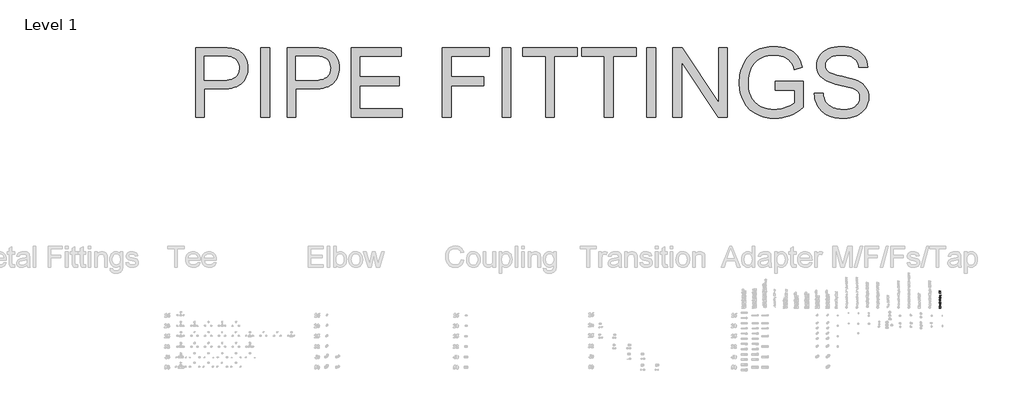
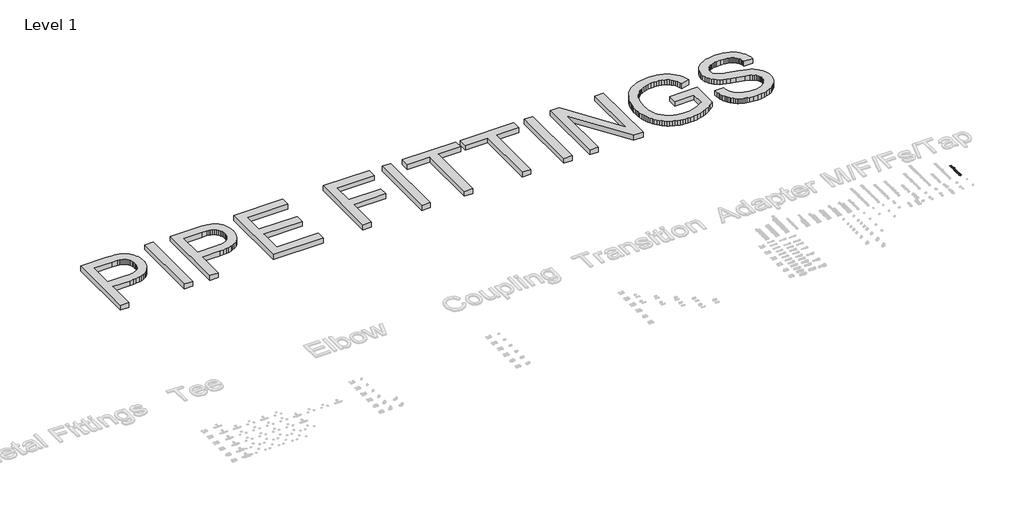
# One storey, part 57 of 57: 2 proxies.
"""IFC4 building model written with IfcOpenShell, lengths in millimetres."""

from ifc_helpers import new_model, si_unit, frame, origin, place, context, project, spatial, polyline, outline, extrude, element, save

model = new_model("IFC4")

# Units and contexts
model_context = context("Model", 3, world=origin())
ifc_project = project(units=[si_unit("LENGTHUNIT", "METRE", prefix="MILLI")], contexts=[model_context])

# Site, building, storey
site = spatial("IfcSite", under=ifc_project)
building = spatial("IfcBuilding", under=site)
storey = spatial("IfcBuildingStorey", under=building, Name="Level 1", Elevation=27.3876384)

# Proxies
placement = place(None, origin())
element("IfcBuildingElementProxy", 1, Name="2000mm Arial", ObjectType="2000mm Arial", at=placement, inside=storey, context=model_context, shape_type="SweptSolid", body=[
    extrude(outline(polyline([(13601.5317073, 35917.4021337), (13601.5317073, 37926.5283367), (14346.1248656, 37926.5283367), (14519.5199126, 37921.7458708), (14588.7430414, 37915.7677884), (14646.3165736, 37907.398473), (14716.1988243, 37892.3306396), (14780.1643062, 37871.6526058), (14838.2130194, 37845.3643716), (14890.3449638, 37813.4659369), (14937.1119624, 37775.2981799), (14979.0658383, 37730.2019786), (15016.2065914, 37678.1773332), (15048.5342217, 37619.2242434), (15074.715157, 37555.2894184), (15093.4158251, 37488.3195668), (15104.636226, 37418.3146888), (15108.3763596, 37345.2747844), (15105.851003, 37282.3746274), (15098.2749331, 37221.9423455), (15085.6481501, 37163.9779386), (15067.9706538, 37108.4814068), (15045.2424443, 37055.45275), (15017.4635215, 37004.8919683), (14984.6338856, 36956.7990617), (14946.7535364, 36911.17403), (14902.2819681, 36869.5573793), (14849.6786749, 36833.4896154), (14788.9436568, 36802.9707382), (14720.0769137, 36778.0007478), (14643.0784457, 36758.5796441), (14557.9482527, 36744.7074272), (14464.6863348, 36736.3840971), (14363.292692, 36733.6096537), (13852.6724827, 36733.6096537), (13852.6724827, 35917.4021337), (13601.5317073, 35917.4021337)]), holes=[polyline([(13852.6724827, 36984.7504291), (14378.0079718, 36984.7504291), (14498.7958936, 36990.5139137), (14552.108126, 36997.7182694), (14600.6992062, 37007.8043674), (14644.5691342, 37020.7722078), (14683.7179098, 37036.6217904), (14718.1455332, 37055.3531153), (14747.8520043, 37076.9661825), (14773.4887809, 37101.1927448), (14795.7073205, 37127.7645547), (14814.5076233, 37156.6816124), (14829.8896892, 37187.9439178), (14841.8535183, 37221.5514709), (14850.3991105, 37257.5042717), (14855.5264658, 37295.8023202), (14857.2355842, 37336.4456165), (14853.2042107, 37395.061481), (14841.1100901, 37449.2627617), (14820.9532224, 37499.0494583), (14792.7336077, 37544.4215711), (14757.9534308, 37583.9075719), (14718.1148764, 37616.0359328), (14673.2179445, 37640.8066538), (14623.2626353, 37658.2197349), (14581.9985382, 37665.730659), (14526.3870432, 37671.0956048), (14372.1218599, 37675.3875614), (13852.6724827, 37675.3875614), (13852.6724827, 36984.7504291)])]), frame((0.0, 0.0, 27.3876384), z_axis=(0.0, 0.0, 1.0), x_axis=(1.0, 0.0, 0.0)), (0.0, 0.0, 1.0), 150.0),
    extrude(outline(polyline([(15485.0875227, 35917.4021337), (15485.0875227, 37926.5283367), (15736.228298, 37926.5283367), (15736.228298, 35917.4021337), (15485.0875227, 35917.4021337)])), frame((0.0, 0.0, 27.3876384), z_axis=(0.0, 0.0, 1.0), x_axis=(1.0, 0.0, 0.0)), (0.0, 0.0, 1.0), 150.0),
    extrude(outline(polyline([(16238.5098488, 35917.4021337), (16238.5098488, 37926.5283367), (16983.103007, 37926.5283367), (17156.4980541, 37921.7458708), (17225.7211828, 37915.7677884), (17283.2947151, 37907.398473), (17353.1769657, 37892.3306396), (17417.1424477, 37871.6526058), (17475.1911608, 37845.3643716), (17527.3231052, 37813.4659369), (17574.0901038, 37775.2981799), (17616.0439797, 37730.2019786), (17653.1847328, 37678.1773332), (17685.5123631, 37619.2242434), (17711.6932985, 37555.2894184), (17730.3939665, 37488.3195668), (17741.6143674, 37418.3146888), (17745.354501, 37345.2747844), (17742.8291444, 37282.3746274), (17735.2530746, 37221.9423455), (17722.6262915, 37163.9779386), (17704.9487952, 37108.4814068), (17682.2205857, 37055.45275), (17654.441663, 37004.8919683), (17621.612027, 36956.7990617), (17583.7316778, 36911.17403), (17539.2601095, 36869.5573793), (17486.6568163, 36833.4896154), (17425.9217982, 36802.9707382), (17357.0550551, 36778.0007478), (17280.0565871, 36758.5796441), (17194.9263942, 36744.7074272), (17101.6644763, 36736.3840971), (17000.2708335, 36733.6096537), (16489.6506241, 36733.6096537), (16489.6506241, 35917.4021337), (16238.5098488, 35917.4021337)]), holes=[polyline([(16489.6506241, 36984.7504291), (17014.9861133, 36984.7504291), (17135.774035, 36990.5139137), (17189.0862675, 36997.7182694), (17237.6773477, 37007.8043674), (17281.5472756, 37020.7722078), (17320.6960513, 37036.6217904), (17355.1236746, 37055.3531153), (17384.8301457, 37076.9661825), (17410.4669223, 37101.1927448), (17432.685462, 37127.7645547), (17451.4857647, 37156.6816124), (17466.8678307, 37187.9439178), (17478.8316597, 37221.5514709), (17487.3772519, 37257.5042717), (17492.5046072, 37295.8023202), (17494.2137256, 37336.4456165), (17490.1823521, 37395.061481), (17478.0882315, 37449.2627617), (17457.9313639, 37499.0494583), (17429.7117492, 37544.4215711), (17394.9315722, 37583.9075719), (17355.0930178, 37616.0359328), (17310.196086, 37640.8066538), (17260.2407767, 37658.2197349), (17218.9766796, 37665.730659), (17163.3651846, 37671.0956048), (17009.1000013, 37675.3875614), (16489.6506241, 37675.3875614), (16489.6506241, 36984.7504291)])]), frame((0.0, 0.0, 27.3876384), z_axis=(0.0, 0.0, 1.0), x_axis=(1.0, 0.0, 0.0)), (0.0, 0.0, 1.0), 150.0),
    extrude(outline(polyline([(18090.6730672, 35917.4021337), (18090.6730672, 37926.5283367), (19534.7325256, 37926.5283367), (19534.7325256, 37675.3875614), (18341.8138425, 37675.3875614), (18341.8138425, 37078.9282199), (19471.9473317, 37078.9282199), (19471.9473317, 36827.7874445), (18341.8138425, 36827.7874445), (18341.8138425, 36168.5429091), (19566.1251225, 36168.5429091), (19566.1251225, 35917.4021337), (18090.6730672, 35917.4021337)])), frame((0.0, 0.0, 27.3876384), z_axis=(0.0, 0.0, 1.0), x_axis=(1.0, 0.0, 0.0)), (0.0, 0.0, 1.0), 150.0),
    extrude(outline(polyline([(20727.6512086, 35917.4021337), (20727.6512086, 37926.5283367), (22077.5328762, 37926.5283367), (22077.5328762, 37675.3875614), (20978.791984, 37675.3875614), (20978.791984, 37078.9282199), (21920.5698916, 37078.9282199), (21920.5698916, 36827.7874445), (20978.791984, 36827.7874445), (20978.791984, 35917.4021337), (20727.6512086, 35917.4021337)])), frame((0.0, 0.0, 27.3876384), z_axis=(0.0, 0.0, 1.0), x_axis=(1.0, 0.0, 0.0)), (0.0, 0.0, 1.0), 150.0),
    extrude(outline(polyline([(22454.2440393, 35917.4021337), (22454.2440393, 37926.5283367), (22705.3848147, 37926.5283367), (22705.3848147, 35917.4021337), (22454.2440393, 35917.4021337)])), frame((0.0, 0.0, 27.3876384), z_axis=(0.0, 0.0, 1.0), x_axis=(1.0, 0.0, 0.0)), (0.0, 0.0, 1.0), 150.0),
    extrude(outline(polyline([(23709.9479162, 35917.4021337), (23709.9479162, 37675.3875614), (23050.7033808, 37675.3875614), (23050.7033808, 37926.5283367), (24620.3332269, 37926.5283367), (24620.3332269, 37675.3875614), (23961.0886915, 37675.3875614), (23961.0886915, 35917.4021337), (23709.9479162, 35917.4021337)])), frame((0.0, 0.0, 27.3876384), z_axis=(0.0, 0.0, 1.0), x_axis=(1.0, 0.0, 0.0)), (0.0, 0.0, 1.0), 150.0),
    extrude(outline(polyline([(25405.1481499, 35917.4021337), (25405.1481499, 37675.3875614), (24745.9036146, 37675.3875614), (24745.9036146, 37926.5283367), (26315.5334607, 37926.5283367), (26315.5334607, 37675.3875614), (25656.2889253, 37675.3875614), (25656.2889253, 35917.4021337), (25405.1481499, 35917.4021337)])), frame((0.0, 0.0, 27.3876384), z_axis=(0.0, 0.0, 1.0), x_axis=(1.0, 0.0, 0.0)), (0.0, 0.0, 1.0), 150.0),
    extrude(outline(polyline([(26629.4594299, 35917.4021337), (26629.4594299, 37926.5283367), (26880.6002052, 37926.5283367), (26880.6002052, 35917.4021337), (26629.4594299, 35917.4021337)])), frame((0.0, 0.0, 27.3876384), z_axis=(0.0, 0.0, 1.0), x_axis=(1.0, 0.0, 0.0)), (0.0, 0.0, 1.0), 150.0),
    extrude(outline(polyline([(27382.881756, 35917.4021337), (27382.881756, 37926.5283367), (27651.6808671, 37926.5283367), (28701.3708267, 36334.8255709), (28701.3708267, 37926.5283367), (28952.5116021, 37926.5283367), (28952.5116021, 35917.4021337), (28683.7124909, 35917.4021337), (27634.0225314, 37509.5954089), (27634.0225314, 35917.4021337), (27382.881756, 35917.4021337)])), frame((0.0, 0.0, 27.3876384), z_axis=(0.0, 0.0, 1.0), x_axis=(1.0, 0.0, 0.0)), (0.0, 0.0, 1.0), 150.0),
    extrude(outline(polyline([(30333.7858666, 36702.2170568), (30333.7858666, 36953.3578322), (31149.9933866, 36953.3578322), (31149.9933866, 36202.3880527), (31051.6002813, 36128.5357421), (30951.6436775, 36064.4323045), (30850.1235753, 36010.0777397), (30747.0399746, 35965.4720478), (30642.5155027, 35930.7071992), (30536.672787, 35905.8751646), (30429.5118275, 35890.9759438), (30321.0326241, 35886.0095368), (30248.0578655, 35887.9830704), (30176.7768968, 35893.9036713), (30107.1897181, 35903.7713394), (30039.2963295, 35917.5860747), (29973.0967309, 35935.3478773), (29908.5909223, 35957.0567471), (29845.7789037, 35982.7126842), (29784.6606752, 36012.3156885), (29726.2364158, 36045.6588264), (29671.5063048, 36082.5351643), (29620.4703422, 36122.9447022), (29573.1285279, 36166.8874401), (29529.4808621, 36214.363378), (29489.5273445, 36265.3725159), (29453.2679754, 36319.9148538), (29420.7027546, 36377.9903917), (29391.9044922, 36438.6985851), (29366.9459981, 36501.1388896), (29345.8272723, 36565.3113051), (29328.5483148, 36631.2158317), (29315.1091257, 36698.8524694), (29305.5097049, 36768.2212181), (29299.7500524, 36839.3220779), (29297.8301682, 36912.1550487), (29299.7423882, 36984.746597), (29305.479048, 37056.1042077), (29315.0401478, 37126.227881), (29328.4256875, 37195.1176167), (29345.6356671, 37262.7734148), (29366.6700866, 37329.1952755), (29391.528946, 37394.3831986), (29420.2122453, 37458.3371842), (29452.482394, 37519.6393538), (29488.1018018, 37576.8718287), (29527.0704686, 37630.0346091), (29569.3883943, 37679.127695), (29615.0555791, 37724.1510862), (29664.0720228, 37765.1047829), (29716.4377256, 37801.9887851), (29772.1526873, 37834.8030926), (29830.6305962, 37863.6588366), (29891.2851401, 37888.6671481), (29954.1163192, 37909.828027), (30019.1241334, 37927.1414734), (30086.3085828, 37940.6074873), (30155.6696673, 37950.2260686), (30227.207387, 37955.9972174), (30300.9217417, 37957.9209337), (30406.9637268, 37953.4603645), (30507.7940504, 37940.0786569), (30603.4127123, 37917.7758109), (30693.8197126, 37886.5518266), (30776.8844014, 37847.3723941), (30850.4761289, 37801.2032037), (30914.5948949, 37748.0442554), (30969.2406996, 37687.8955492), (31016.1609824, 37619.392856), (31057.1031828, 37541.1719468), (31092.0673008, 37453.2328215), (31121.0533363, 37355.5754802), (30889.532934, 37290.3377397), (30865.0841098, 37360.5878724), (30837.8455137, 37422.7139443), (30807.8171458, 37476.7159556), (30774.9990062, 37522.593906), (30737.1071607, 37562.3251615), (30691.8576753, 37597.8870877), (30639.25055, 37629.2796846), (30579.2857848, 37656.5029523), (30513.9100885, 37678.4992299), (30445.0701702, 37694.2108568), (30372.7660297, 37703.6378329), (30296.9976671, 37706.7801583), (30207.1884751, 37703.3925782), (30123.6639337, 37693.2298381), (30046.4240432, 37676.2919379), (29975.4688033, 37652.5788777), (29910.93617, 37623.3629159), (29852.9640989, 37589.9163112), (29801.5525901, 37552.2390635), (29756.7016435, 37510.3311729), (29717.445569, 37465.2196432), (29682.8186762, 37417.9314784), (29652.8209652, 37368.4666785), (29627.4524359, 37316.8252434), (29593.116783, 37223.9350396), (29568.5913167, 37127.2433886), (29553.8760369, 37026.7502902), (29548.9709436, 36922.4557446), (29554.8723839, 36797.0539695), (29562.2491844, 36738.3423023), (29572.576705, 36682.2901154), (29585.8549457, 36628.8974087), (29602.0839067, 36578.1641823), (29621.2635878, 36530.0904362), (29643.393989, 36484.6761703), (29668.3409868, 36442.0095231), (29695.9704575, 36402.1786329), (29726.2824011, 36365.1834997), (29759.2768175, 36331.0241237), (29794.9537068, 36299.7005046), (29833.313069, 36271.2126426), (29874.3549041, 36245.5605377), (29918.0792121, 36222.7441897), (30009.6051868, 36185.2968683), (30103.9209333, 36158.5487816), (30201.0264516, 36142.4999295), (30300.9217417, 36137.1503122), (30388.4316713, 36141.1816857), (30474.8686118, 36153.2758063), (30560.2325631, 36173.432674), (30644.5235252, 36201.6522887), (30723.2349438, 36234.4397715), (30791.8602643, 36268.3002435), (30850.3994868, 36303.2337046), (30898.8526112, 36339.2401549), (30898.8526112, 36702.2170568), (30333.7858666, 36702.2170568)])), frame((0.0, 0.0, 27.3876384), z_axis=(0.0, 0.0, 1.0), x_axis=(1.0, 0.0, 0.0)), (0.0, 0.0, 1.0), 150.0),
    extrude(outline(polyline([(31463.9193558, 36608.039266), (31715.0601312, 36608.039266), (31726.5564435, 36534.9380479), (31743.8775542, 36468.6733035), (31767.023463, 36409.2450329), (31795.9941701, 36356.653236), (31832.2612035, 36309.8402521), (31877.2960911, 36267.7484205), (31931.0988329, 36230.3777411), (31993.6694289, 36197.7282141), (32062.7086166, 36171.225382), (32135.9171337, 36152.2947877), (32213.29498, 36140.9364311), (32294.8421556, 36137.1503122), (32366.9776835, 36140.0167261), (32434.7599411, 36148.6159677), (32498.1889284, 36162.9480371), (32557.2646455, 36183.0129343), (32610.5308927, 36208.0902236), (32656.5314705, 36237.4594695), (32695.2663789, 36271.1206721), (32726.7356179, 36309.0738313), (32751.0924717, 36349.6788065), (32768.4902244, 36391.2954572), (32778.928876, 36433.9237834), (32782.4084265, 36477.5637851), (32779.8025957, 36521.0198457), (32771.9851033, 36561.624821), (32758.9559493, 36599.3787107), (32740.7151338, 36634.281515), (32714.4115711, 36666.5171748), (32677.1941759, 36696.2696312), (32629.0629482, 36723.5388841), (32570.017888, 36748.3249335), (32437.3964287, 36787.7496207), (32204.3431848, 36844.2195069), (32073.5151502, 36876.3325394), (31964.3001829, 36907.6791511), (31876.6982828, 36938.2593419), (31810.7094499, 36968.073112), (31743.6476279, 37008.0802789), (31685.6908852, 37052.5633435), (31636.839222, 37101.5223057), (31597.0926381, 37154.9571655), (31566.2978494, 37212.3160999), (31544.3015718, 37273.047286), (31531.1038052, 37337.1507236), (31526.7045497, 37404.6264129), (31532.1461375, 37479.4137568), (31548.470901, 37551.7178973), (31575.6788403, 37621.5388343), (31613.7699552, 37688.8765679), (31636.7894046, 37720.9282867), (31662.3150501, 37750.9873114), (31720.8849295, 37805.1272783), (31789.4795931, 37851.2964687), (31868.0990412, 37889.4948826), (31954.0914576, 37919.4312799), (32044.8050262, 37940.8144209), (32140.2397471, 37953.6443055), (32240.3956203, 37957.9209337), (32349.6565729, 37953.4450361), (32452.2956495, 37940.0173432), (32548.3128503, 37917.6378552), (32637.7081751, 37886.3065719), (32718.826155, 37846.299405), (32790.0113211, 37797.8922658), (32821.8790989, 37770.5387066), (32851.2636733, 37741.0851543), (32878.1650442, 37709.531609), (32902.5832116, 37675.8780707), (32943.5713973, 37604.1717385), (32973.8296914, 37527.8668813), (32993.3580939, 37446.9634992), (33002.156605, 37361.4615921), (32751.0158296, 37361.4615921), (32744.1793559, 37402.8329882), (32734.2158852, 37441.5985534), (32721.1254175, 37477.7582879), (32704.9079529, 37511.3121915), (32685.5634913, 37542.2602644), (32663.0920328, 37570.6025064), (32637.4935773, 37596.3389177), (32608.7681248, 37619.4694981), (32576.6627565, 37639.9329341), (32540.9245535, 37657.6679119), (32501.5535158, 37672.6744316), (32458.5496434, 37684.9524932), (32411.9129364, 37694.5020967), (32361.6433946, 37701.323242), (32250.2058068, 37706.7801583), (32135.2120265, 37701.3845557), (32083.9921229, 37694.6400524), (32036.956877, 37685.1977479), (31994.1062887, 37673.0576421), (31955.4403582, 37658.2197349), (31920.9590854, 37640.6840265), (31890.6624702, 37620.4505168), (31864.2209518, 37598.3086192), (31841.3049692, 37575.0477472), (31821.9145224, 37550.6679008), (31806.0496113, 37525.16908), (31793.7102361, 37498.5512848), (31784.8963966, 37470.8145152), (31779.6080929, 37441.9587712), (31777.845325, 37411.9840528), (31782.8423888, 37361.3696216), (31797.8335801, 37315.4763427), (31822.818899, 37274.3042161), (31857.7983453, 37237.8532418), (31881.3734499, 37220.6394301), (31912.8580173, 37203.3336479), (31999.5555408, 37168.446172), (32117.8909159, 37133.1908141), (32267.8641426, 37097.5675743), (32419.9833476, 37062.8333826), (32544.7566577, 37030.2451692), (32642.1840727, 36999.8029341), (32712.2655928, 36971.5066773), (32789.2602287, 36928.617768), (32855.4330026, 36880.3945698), (32910.7839144, 36826.8370827), (32955.3129643, 36767.9453066), (32989.5413182, 36704.0258099), (33013.9901425, 36635.385161), (33028.6594371, 36562.0233598), (33033.5492019, 36483.9404063), (33027.9236731, 36405.3822719), (33011.0470865, 36329.1234), (32982.9194423, 36255.1637906), (32943.5407404, 36183.5034436), (32893.6007596, 36116.9168025), (32833.7892785, 36058.1783106), (32764.1062973, 36007.2879679), (32684.5518158, 35964.2457745), (32597.440425, 35930.0174205), (32505.0867158, 35905.5685962), (32407.4906882, 35890.8993017), (32304.6523421, 35886.0095368), (32176.1848837, 35891.2825121), (32058.600601, 35907.1014379), (32003.8896506, 35918.9656322), (31951.899494, 35933.4663142), (31902.6301314, 35950.6034838), (31856.0815627, 35970.3771411), (31812.1081679, 35992.8026143), (31770.5643272, 36017.8952321), (31731.4500405, 36045.6549943), (31694.7653078, 36076.081901), (31660.5101291, 36109.1759521), (31628.6845044, 36144.9371478), (31599.2884337, 36183.3654878), (31572.3219171, 36224.4609724), (31548.0953548, 36267.5798079), (31526.9191475, 36312.0782009), (31508.793295, 36357.9561514), (31493.7177974, 36405.2136594), (31481.6926547, 36453.8507248), (31472.7178669, 36503.8673477), (31463.9193558, 36608.039266)])), frame((0.0, 0.0, 27.3876384), z_axis=(0.0, 0.0, 1.0), x_axis=(1.0, 0.0, 0.0)), (0.0, 0.0, 1.0), 150.0),
])
element("IfcBuildingElementProxy", 2, Name="50mm Arial", ObjectType="50mm Arial", at=placement, inside=storey, context=model_context, shape_type="SweptSolid", body=[
    extrude(outline(polyline([(35119.1417262, 30406.8112945), (35068.9135711, 30406.8112945), (35068.9135711, 30417.6147624), (35104.3160818, 30427.8909328), (35111.7105099, 30429.9633347), (35103.7029451, 30432.2074149), (35068.9135711, 30442.311907), (35068.9135711, 30453.115375), (35119.1417262, 30453.115375), (35119.1417262, 30446.8368556), (35075.1920905, 30446.8368556), (35119.1417262, 30434.2185032), (35119.1417262, 30425.7081663), (35075.1920905, 30413.0898139), (35119.1417262, 30413.0898139), (35119.1417262, 30406.8112945)])), frame((0.0, 0.0, 27.3876384), z_axis=(0.0, 0.0, 1.0), x_axis=(1.0, 0.0, 0.0)), (0.0, 0.0, 1.0), 2.0),
    extrude(outline(polyline([(35114.4328366, 30486.8624167), (35118.6880051, 30480.7739696), (35119.9265411, 30474.0478605), (35116.9466969, 30464.9305184), (35109.3315396, 30461.7483391), (35104.3651327, 30462.950087), (35100.7598892, 30466.1077408), (35098.69975, 30470.5039306), (35097.7555195, 30475.9363214), (35095.5972785, 30486.8256285), (35089.5640138, 30485.1333713), (35087.7491293, 30478.1926643), (35088.9570085, 30471.8405685), (35093.2428337, 30468.8116734), (35092.4580188, 30462.533154), (35086.3266522, 30465.2493494), (35082.7336714, 30470.7185284), (35081.4706099, 30479.0020047), (35082.5865186, 30486.6110306), (35085.3885531, 30490.9091186), (35089.6498529, 30492.8343677), (35095.1435574, 30493.140936), (35102.9549184, 30493.140936), (35113.8626195, 30493.4597671), (35119.1417262, 30494.7105659), (35119.1417262, 30488.4320465), (35114.4328366, 30486.8624167)]), holes=[polyline([(35101.8757979, 30486.8624167), (35103.801047, 30476.7333991), (35104.8188538, 30471.3316651), (35106.4743228, 30468.8852498), (35108.8900812, 30468.0268585), (35112.2868583, 30469.8969253), (35113.6480217, 30475.3844984), (35112.1458369, 30481.7365942), (35108.5099365, 30485.8323471), (35103.6538942, 30486.8256285), (35101.8757979, 30486.8624167)])]), frame((0.0, 0.0, 27.3876384), z_axis=(0.0, 0.0, 1.0), x_axis=(1.0, 0.0, 0.0)), (0.0, 0.0, 1.0), 2.0),
    extrude(outline(polyline([(35119.1417262, 30501.7739002), (35082.2554248, 30501.7739002), (35082.2554248, 30508.0524196), (35087.4057727, 30508.0524196), (35082.9544006, 30512.8532796), (35081.4706099, 30519.4077105), (35082.6662264, 30525.336742), (35085.805486, 30529.3834439), (35090.4224051, 30531.2657735), (35096.492458, 30531.5968673), (35119.1417262, 30531.5968673), (35119.1417262, 30525.3183479), (35097.3385866, 30525.3183479), (35091.7835685, 30524.5948466), (35088.8466439, 30522.0380668), (35087.7491293, 30517.7277161), (35090.2139386, 30510.9157678), (35099.570404, 30508.0524196), (35119.1417262, 30508.0524196), (35119.1417262, 30501.7739002)])), frame((0.0, 0.0, 27.3876384), z_axis=(0.0, 0.0, 1.0), x_axis=(1.0, 0.0, 0.0)), (0.0, 0.0, 1.0), 2.0),
    extrude(outline(polyline([(35119.1417262, 30540.2298314), (35082.2554248, 30540.2298314), (35082.2554248, 30546.5083508), (35119.1417262, 30546.5083508), (35119.1417262, 30540.2298314)])), frame((0.0, 0.0, 27.3876384), z_axis=(0.0, 0.0, 1.0), x_axis=(1.0, 0.0, 0.0)), (0.0, 0.0, 1.0), 2.0),
    extrude(outline(polyline([(35075.1920905, 30540.2298314), (35068.9135711, 30540.2298314), (35068.9135711, 30546.5083508), (35075.1920905, 30546.5083508), (35075.1920905, 30540.2298314)])), frame((0.0, 0.0, 27.3876384), z_axis=(0.0, 0.0, 1.0), x_axis=(1.0, 0.0, 0.0)), (0.0, 0.0, 1.0), 2.0),
    extrude(outline(polyline([(35119.1417262, 30557.4957597), (35088.5339442, 30557.4957597), (35088.5339442, 30552.0020553), (35082.2554248, 30552.0020553), (35082.2554248, 30557.4957597), (35078.5398166, 30557.4957597), (35073.3036296, 30558.1579473), (35069.563496, 30561.3707834), (35068.1287562, 30567.6983537), (35068.8154692, 30573.4250501), (35074.7015812, 30572.5053451), (35074.4072756, 30568.8878389), (35075.4496079, 30564.9331074), (35079.3368943, 30563.7742791), (35082.2554248, 30563.7742791), (35082.2554248, 30570.8376134), (35088.5339442, 30570.8376134), (35088.5339442, 30563.7742791), (35119.1417262, 30563.7742791), (35119.1417262, 30557.4957597)])), frame((0.0, 0.0, 27.3876384), z_axis=(0.0, 0.0, 1.0), x_axis=(1.0, 0.0, 0.0)), (0.0, 0.0, 1.0), 2.0),
    extrude(outline(polyline([(35100.6985755, 30574.761688), (35091.8050283, 30576.1197857), (35085.5541, 30580.1940788), (35081.4706099, 30591.2550642), (35086.4431482, 30603.1192585), (35100.1835407, 30607.7239148), (35111.3548906, 30605.6883011), (35117.6763296, 30599.7592696), (35119.9265411, 30591.2550642), (35114.9723969, 30579.3172934), (35100.6985755, 30574.761688)]), holes=[polyline([(35100.6863128, 30581.0402074), (35110.4167915, 30583.9464752), (35113.6480217, 30591.2550642), (35110.3983974, 30598.5391277), (35100.490109, 30601.4453954), (35090.9803594, 30598.5207336), (35087.7491293, 30591.2550642), (35090.9680967, 30583.9464752), (35100.6863128, 30581.0402074)])]), frame((0.0, 0.0, 27.3876384), z_axis=(0.0, 0.0, 1.0), x_axis=(1.0, 0.0, 0.0)), (0.0, 0.0, 1.0), 2.0),
    extrude(outline(polyline([(35119.1417262, 30614.7872491), (35068.9135711, 30614.7872491), (35068.9135711, 30621.0657685), (35119.1417262, 30621.0657685), (35119.1417262, 30614.7872491)])), frame((0.0, 0.0, 27.3876384), z_axis=(0.0, 0.0, 1.0), x_axis=(1.0, 0.0, 0.0)), (0.0, 0.0, 1.0), 2.0),
    extrude(outline(polyline([(35119.1417262, 30653.2431803), (35113.2188261, 30653.2431803), (35118.2496123, 30649.0891795), (35119.9265411, 30643.3471547), (35117.4985199, 30635.5725818), (35110.7233599, 30630.0788774), (35100.7353637, 30628.1291028), (35090.7412362, 30629.9255932), (35083.8618428, 30635.3089331), (35081.4706099, 30643.3226292), (35083.1812611, 30649.1106393), (35087.6265019, 30653.2431803), (35068.9135711, 30653.2431803), (35068.9135711, 30659.5216997), (35119.1417262, 30659.5216997), (35119.1417262, 30653.2431803)]), holes=[polyline([(35100.7108382, 30634.4076222), (35110.4290543, 30637.2403136), (35113.6480217, 30643.9235031), (35110.5762071, 30650.5269849), (35101.1890848, 30653.2431803), (35090.9987535, 30650.477934), (35087.7491293, 30643.6659857), (35090.8699948, 30637.0563726), (35100.7108382, 30634.4076222)])]), frame((0.0, 0.0, 27.3876384), z_axis=(0.0, 0.0, 1.0), x_axis=(1.0, 0.0, 0.0)), (0.0, 0.0, 1.0), 2.0),
    extrude(outline(polyline([(35101.2871867, 30724.6613383), (35102.9058675, 30730.9398577), (35115.5671395, 30723.4963787), (35119.9265411, 30710.3507287), (35116.6278659, 30697.2847865), (35107.0751967, 30689.6205783), (35093.6475039, 30686.990222), (35079.9990819, 30689.9639348), (35071.1515199, 30698.4190894), (35068.1287562, 30710.4856188), (35072.0405681, 30723.0610517), (35083.0525025, 30730.1550428), (35084.5485559, 30723.8765234), (35076.8291654, 30718.7261755), (35074.4072756, 30710.2403641), (35077.0928141, 30700.4179149), (35084.3033012, 30694.8690281), (35093.6352412, 30693.2687414), (35104.4509718, 30695.1633337), (35111.361022, 30701.0617084), (35113.6480217, 30709.7253293), (35110.5332875, 30719.3331808), (35101.2871867, 30724.6613383)])), frame((0.0, 0.0, 27.3876384), z_axis=(0.0, 0.0, 1.0), x_axis=(1.0, 0.0, 0.0)), (0.0, 0.0, 1.0), 2.0),
    extrude(outline(polyline([(35114.4328366, 30762.3324546), (35118.6880051, 30756.2440076), (35119.9265411, 30749.5178985), (35116.9466969, 30740.4005564), (35109.3315396, 30737.2183771), (35104.3651327, 30738.420125), (35100.7598892, 30741.5777788), (35098.69975, 30745.9739686), (35097.7555195, 30751.4063594), (35095.5972785, 30762.2956664), (35089.5640138, 30760.6034093), (35087.7491293, 30753.6627023), (35088.9570085, 30747.3106065), (35093.2428337, 30744.2817114), (35092.4580188, 30738.003192), (35086.3266522, 30740.7193874), (35082.7336714, 30746.1885664), (35081.4706099, 30754.4720427), (35082.5865186, 30762.0810686), (35085.3885531, 30766.3791566), (35089.6498529, 30768.3044057), (35095.1435574, 30768.610974), (35102.9549184, 30768.610974), (35113.8626195, 30768.9298051), (35119.1417262, 30770.1806039), (35119.1417262, 30763.9020845), (35114.4328366, 30762.3324546)]), holes=[polyline([(35101.8757979, 30762.3324546), (35103.801047, 30752.203437), (35104.8188538, 30746.8017031), (35106.4743228, 30744.3552878), (35108.8900812, 30743.4968965), (35112.2868583, 30745.3669633), (35113.6480217, 30750.8545364), (35112.1458369, 30757.2066322), (35108.5099365, 30761.3023851), (35103.6538942, 30762.2956664), (35101.8757979, 30762.3324546)])]), frame((0.0, 0.0, 27.3876384), z_axis=(0.0, 0.0, 1.0), x_axis=(1.0, 0.0, 0.0)), (0.0, 0.0, 1.0), 2.0),
    extrude(outline(polyline([(35133.2683948, 30777.2439382), (35082.2554248, 30777.2439382), (35082.2554248, 30783.5224576), (35088.4113168, 30783.5224576), (35083.2057866, 30787.8634651), (35081.4706099, 30793.7250516), (35083.898631, 30801.6835654), (35090.7412362, 30806.8829643), (35100.4165326, 30808.6365351), (35110.5884698, 30806.6561037), (35117.516914, 30800.9048818), (35119.9265411, 30792.9647621), (35118.3139917, 30787.5017145), (35114.2366329, 30783.5224576), (35133.2683948, 30783.5224576), (35133.2683948, 30777.2439382)]), holes=[polyline([(35100.9928811, 30783.5224576), (35110.557813, 30786.238653), (35113.6480217, 30792.829872), (35110.4474484, 30799.5559812), (35100.5268972, 30802.3580157), (35090.9374399, 30799.6234262), (35087.7491293, 30793.0873894), (35091.139775, 30786.422594), (35100.9928811, 30783.5224576)])]), frame((0.0, 0.0, 27.3876384), z_axis=(0.0, 0.0, 1.0), x_axis=(1.0, 0.0, 0.0)), (0.0, 0.0, 1.0), 2.0),
    extrude(outline(polyline([(35119.1417262, 30836.1050574), (35068.9135711, 30836.1050574), (35068.9135711, 30869.8520991), (35075.1920905, 30869.8520991), (35075.1920905, 30842.3835768), (35090.103574, 30842.3835768), (35090.103574, 30865.9280245), (35096.3820934, 30865.9280245), (35096.3820934, 30842.3835768), (35119.1417262, 30842.3835768), (35119.1417262, 30836.1050574)])), frame((0.0, 0.0, 27.3876384), z_axis=(0.0, 0.0, 1.0), x_axis=(1.0, 0.0, 0.0)), (0.0, 0.0, 1.0), 2.0),
    extrude(outline(polyline([(35119.1417262, 30891.042102), (35075.1920905, 30891.042102), (35075.1920905, 30874.5609886), (35068.9135711, 30874.5609886), (35068.9135711, 30913.8017348), (35075.1920905, 30913.8017348), (35075.1920905, 30897.3206214), (35119.1417262, 30897.3206214), (35119.1417262, 30891.042102)])), frame((0.0, 0.0, 27.3876384), z_axis=(0.0, 0.0, 1.0), x_axis=(1.0, 0.0, 0.0)), (0.0, 0.0, 1.0), 2.0),
])

save(model, "model.ifc")
